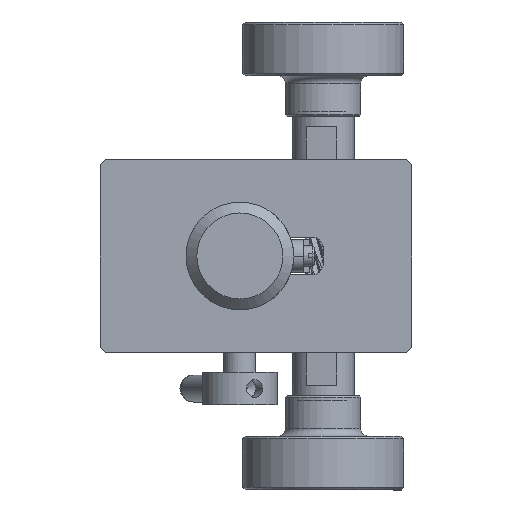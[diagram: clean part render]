
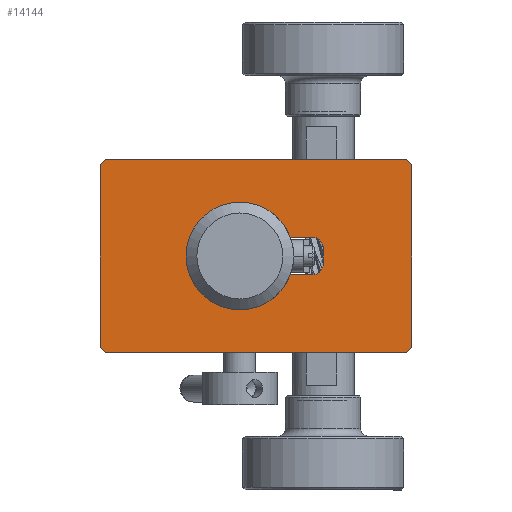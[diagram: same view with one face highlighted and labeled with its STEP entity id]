
A CAD part, front view. The second image highlights one B-rep face of the part: STEP entity #14144.
In plain terms, the highlighted planar face has unit normal (0, -1, 0).
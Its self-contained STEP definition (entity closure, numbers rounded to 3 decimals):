
#1313 = FACE_BOUND ( 'NONE', #49526, .T. ) ;
#1564 = EDGE_CURVE ( 'NONE', #126375, #25737, #61743, .T. ) ;
#1733 = CARTESIAN_POINT ( 'NONE',  ( -3.626, -21.381, 107.208 ) ) ;
#5154 = VECTOR ( 'NONE', #33809, 1000. ) ;
#5788 = LINE ( 'NONE', #66544, #93980 ) ;
#6045 = EDGE_CURVE ( 'NONE', #33014, #125833, #57429, .T. ) ;
#7089 = ORIENTED_EDGE ( 'NONE', *, *, #6045, .T. ) ;
#7247 = CARTESIAN_POINT ( 'NONE',  ( 54.374, -21.381, 107.208 ) ) ;
#7307 = EDGE_CURVE ( 'NONE', #125833, #57448, #74077, .T. ) ;
#9607 = CARTESIAN_POINT ( 'NONE',  ( 54.374, -21.381, 72.208 ) ) ;
#10366 = EDGE_CURVE ( 'NONE', #57448, #49180, #53743, .T. ) ;
#12651 = CARTESIAN_POINT ( 'NONE',  ( 54.374, -21.381, 72.208 ) ) ;
#13117 = LINE ( 'NONE', #53832, #5154 ) ;
#14144 = ADVANCED_FACE ( 'NONE', ( #1313, #117165 ), #84102, .F. ) ;
#14443 = CARTESIAN_POINT ( 'NONE',  ( 37.874, -21.381, 88.708 ) ) ;
#17205 = EDGE_CURVE ( 'NONE', #126375, #25559, #127152, .T. ) ;
#20361 = DIRECTION ( 'NONE',  ( 0.707, 0., -0.707 ) ) ;
#21007 = DIRECTION ( 'NONE',  ( 0.707, 0., 0.707 ) ) ;
#22193 = ORIENTED_EDGE ( 'NONE', *, *, #64244, .T. ) ;
#23790 = EDGE_CURVE ( 'NONE', #81914, #40335, #60034, .T. ) ;
#25559 = VERTEX_POINT ( 'NONE', #117697 ) ;
#25737 = VERTEX_POINT ( 'NONE', #117017 ) ;
#25942 = EDGE_CURVE ( 'NONE', #81914, #79728, #106007, .T. ) ;
#26724 = VERTEX_POINT ( 'NONE', #7247 ) ;
#26787 = CARTESIAN_POINT ( 'NONE',  ( 53.374, -21.381, 72.208 ) ) ;
#29453 = EDGE_LOOP ( 'NONE', ( #136147, #108913, #61037, #99214, #112909, #56778, #101507, #68848 ) ) ;
#30300 = VECTOR ( 'NONE', #54727, 1000. ) ;
#30562 = VECTOR ( 'NONE', #86173, 1000. ) ;
#30702 = LINE ( 'NONE', #112116, #81869 ) ;
#31306 = DIRECTION ( 'NONE',  ( 0., 1., 0. ) ) ;
#31862 = VERTEX_POINT ( 'NONE', #120847 ) ;
#31981 = DIRECTION ( 'NONE',  ( -1., 0., 0. ) ) ;
#33014 = VERTEX_POINT ( 'NONE', #64228 ) ;
#33809 = DIRECTION ( 'NONE',  ( 1., 0., 0. ) ) ;
#36652 = CARTESIAN_POINT ( 'NONE',  ( -2.626, -21.381, 108.208 ) ) ;
#37353 = AXIS2_PLACEMENT_3D ( 'NONE', #73761, #115802, #63403 ) ;
#40335 = VERTEX_POINT ( 'NONE', #64575 ) ;
#44067 = CARTESIAN_POINT ( 'NONE',  ( 31.742, -21.381, 86.708 ) ) ;
#44247 = VERTEX_POINT ( 'NONE', #47121 ) ;
#47121 = CARTESIAN_POINT ( 'NONE',  ( 31.742, -21.381, 93.708 ) ) ;
#47388 = CIRCLE ( 'NONE', #60695, 2. ) ;
#47854 = DIRECTION ( 'NONE',  ( 0., 0., 1. ) ) ;
#49180 = VERTEX_POINT ( 'NONE', #81641 ) ;
#49354 = VECTOR ( 'NONE', #136375, 1000. ) ;
#49526 = EDGE_LOOP ( 'NONE', ( #126542, #22193, #102586, #7089, #72916, #108696 ) ) ;
#50349 = DIRECTION ( 'NONE',  ( 1., 0., 0. ) ) ;
#51539 = DIRECTION ( 'NONE',  ( -0.707, 0., -0.707 ) ) ;
#52541 = CARTESIAN_POINT ( 'NONE',  ( 35.874, -21.381, 88.708 ) ) ;
#53743 = LINE ( 'NONE', #44067, #30562 ) ;
#53832 = CARTESIAN_POINT ( 'NONE',  ( 31.742, -21.381, 93.708 ) ) ;
#54727 = DIRECTION ( 'NONE',  ( 0., 0., -1. ) ) ;
#56778 = ORIENTED_EDGE ( 'NONE', *, *, #1564, .T. ) ;
#57429 = LINE ( 'NONE', #99513, #30300 ) ;
#57448 = VERTEX_POINT ( 'NONE', #101882 ) ;
#60034 = LINE ( 'NONE', #113124, #68478 ) ;
#60695 = AXIS2_PLACEMENT_3D ( 'NONE', #95898, #66200, #117927 ) ;
#61037 = ORIENTED_EDGE ( 'NONE', *, *, #134997, .F. ) ;
#61743 = LINE ( 'NONE', #134806, #69702 ) ;
#63393 = EDGE_CURVE ( 'NONE', #49180, #44247, #64661, .T. ) ;
#63403 = DIRECTION ( 'NONE',  ( -1., 0., 0. ) ) ;
#63995 = LINE ( 'NONE', #128782, #49354 ) ;
#64228 = CARTESIAN_POINT ( 'NONE',  ( 37.874, -21.381, 91.708 ) ) ;
#64244 = EDGE_CURVE ( 'NONE', #44247, #31862, #13117, .T. ) ;
#64575 = CARTESIAN_POINT ( 'NONE',  ( 53.374, -21.381, 108.208 ) ) ;
#64661 = CIRCLE ( 'NONE', #121936, 10. ) ;
#66200 = DIRECTION ( 'NONE',  ( 0., 1., 0. ) ) ;
#66544 = CARTESIAN_POINT ( 'NONE',  ( -3.626, -21.381, 72.208 ) ) ;
#68478 = VECTOR ( 'NONE', #50349, 1000. ) ;
#68848 = ORIENTED_EDGE ( 'NONE', *, *, #118068, .T. ) ;
#69702 = VECTOR ( 'NONE', #21007, 1000. ) ;
#72384 = LINE ( 'NONE', #9607, #126088 ) ;
#72721 = CARTESIAN_POINT ( 'NONE',  ( 22.374, -21.381, 90.208 ) ) ;
#72916 = ORIENTED_EDGE ( 'NONE', *, *, #7307, .T. ) ;
#73761 = CARTESIAN_POINT ( 'NONE',  ( 54.374, -21.381, 72.208 ) ) ;
#74077 = CIRCLE ( 'NONE', #91657, 2. ) ;
#79728 = VERTEX_POINT ( 'NONE', #1733 ) ;
#81641 = CARTESIAN_POINT ( 'NONE',  ( 31.742, -21.381, 86.708 ) ) ;
#81869 = VECTOR ( 'NONE', #20361, 1000. ) ;
#81914 = VERTEX_POINT ( 'NONE', #36652 ) ;
#83281 = CARTESIAN_POINT ( 'NONE',  ( -2.626, -21.381, 108.208 ) ) ;
#83750 = DIRECTION ( 'NONE',  ( -1., 0., 0. ) ) ;
#84102 = PLANE ( 'NONE',  #37353 ) ;
#86173 = DIRECTION ( 'NONE',  ( -1., 0., 0. ) ) ;
#91657 = AXIS2_PLACEMENT_3D ( 'NONE', #52541, #127010, #116658 ) ;
#92072 = VERTEX_POINT ( 'NONE', #130691 ) ;
#92491 = VECTOR ( 'NONE', #31981, 1000. ) ;
#93980 = VECTOR ( 'NONE', #47854, 1000. ) ;
#95898 = CARTESIAN_POINT ( 'NONE',  ( 35.874, -21.381, 91.708 ) ) ;
#97904 = EDGE_CURVE ( 'NONE', #26724, #25737, #72384, .T. ) ;
#99214 = ORIENTED_EDGE ( 'NONE', *, *, #104817, .T. ) ;
#99513 = CARTESIAN_POINT ( 'NONE',  ( 37.874, -21.381, 93.708 ) ) ;
#101507 = ORIENTED_EDGE ( 'NONE', *, *, #97904, .F. ) ;
#101882 = CARTESIAN_POINT ( 'NONE',  ( 35.874, -21.381, 86.708 ) ) ;
#102586 = ORIENTED_EDGE ( 'NONE', *, *, #126083, .T. ) ;
#104102 = DIRECTION ( 'NONE',  ( 0., 0., -1. ) ) ;
#104817 = EDGE_CURVE ( 'NONE', #92072, #25559, #30702, .T. ) ;
#106007 = LINE ( 'NONE', #83281, #108253 ) ;
#108253 = VECTOR ( 'NONE', #51539, 1000. ) ;
#108696 = ORIENTED_EDGE ( 'NONE', *, *, #10366, .T. ) ;
#108913 = ORIENTED_EDGE ( 'NONE', *, *, #25942, .T. ) ;
#112116 = CARTESIAN_POINT ( 'NONE',  ( -3.626, -21.381, 73.208 ) ) ;
#112909 = ORIENTED_EDGE ( 'NONE', *, *, #17205, .F. ) ;
#113124 = CARTESIAN_POINT ( 'NONE',  ( 54.374, -21.381, 108.208 ) ) ;
#115802 = DIRECTION ( 'NONE',  ( 0., 1., 0. ) ) ;
#116658 = DIRECTION ( 'NONE',  ( -1., 0., 0. ) ) ;
#117017 = CARTESIAN_POINT ( 'NONE',  ( 54.374, -21.381, 73.208 ) ) ;
#117165 = FACE_OUTER_BOUND ( 'NONE', #29453, .T. ) ;
#117697 = CARTESIAN_POINT ( 'NONE',  ( -2.626, -21.381, 72.208 ) ) ;
#117927 = DIRECTION ( 'NONE',  ( -1., 0., 0. ) ) ;
#118068 = EDGE_CURVE ( 'NONE', #26724, #40335, #63995, .T. ) ;
#120847 = CARTESIAN_POINT ( 'NONE',  ( 35.874, -21.381, 93.708 ) ) ;
#121936 = AXIS2_PLACEMENT_3D ( 'NONE', #72721, #31306, #83750 ) ;
#125833 = VERTEX_POINT ( 'NONE', #14443 ) ;
#126083 = EDGE_CURVE ( 'NONE', #31862, #33014, #47388, .T. ) ;
#126088 = VECTOR ( 'NONE', #104102, 1000. ) ;
#126375 = VERTEX_POINT ( 'NONE', #26787 ) ;
#126542 = ORIENTED_EDGE ( 'NONE', *, *, #63393, .T. ) ;
#127010 = DIRECTION ( 'NONE',  ( 0., 1., 0. ) ) ;
#127152 = LINE ( 'NONE', #12651, #92491 ) ;
#128782 = CARTESIAN_POINT ( 'NONE',  ( 54.374, -21.381, 107.208 ) ) ;
#130691 = CARTESIAN_POINT ( 'NONE',  ( -3.626, -21.381, 73.208 ) ) ;
#134806 = CARTESIAN_POINT ( 'NONE',  ( 53.374, -21.381, 72.208 ) ) ;
#134997 = EDGE_CURVE ( 'NONE', #92072, #79728, #5788, .T. ) ;
#136147 = ORIENTED_EDGE ( 'NONE', *, *, #23790, .F. ) ;
#136375 = DIRECTION ( 'NONE',  ( -0.707, 0., 0.707 ) ) ;
